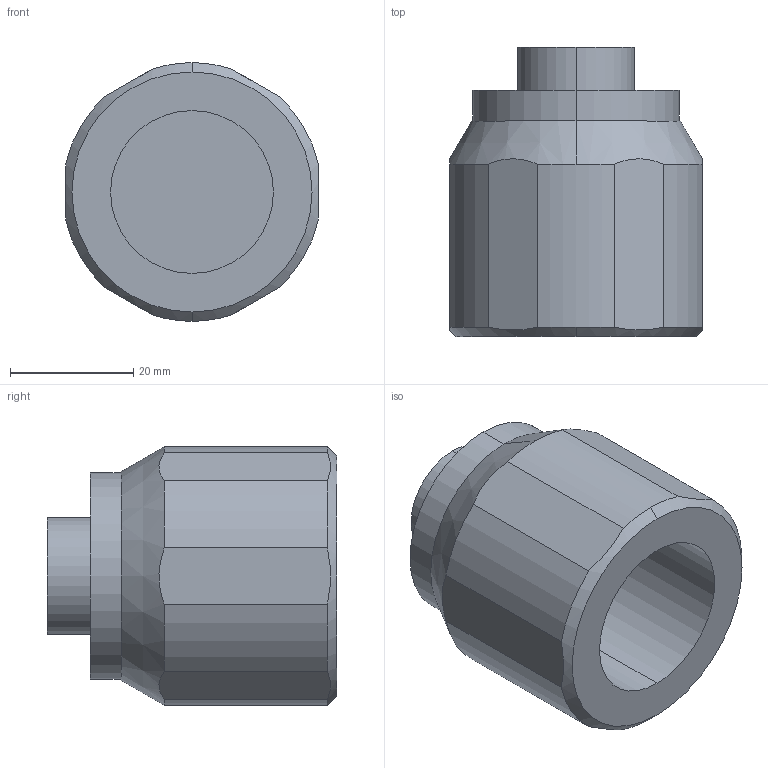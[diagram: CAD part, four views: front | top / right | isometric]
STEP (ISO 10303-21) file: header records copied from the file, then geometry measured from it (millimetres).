
FILE_DESCRIPTION (( 'STEP AP214' ), '1' );
FILE_NAME ('Silvent 715C.STEP', '2012-02-02T15:22:25', ( 'silvpesv' ), ( '' ), 'SwSTEP 2.0', 'SolidWorks 2011', '' );
FILE_SCHEMA (( 'AUTOMOTIVE_DESIGN' ));
Length unit declared in the file: millimetre
Products named in the file (1): Silvent 715C
Bounding box: 41 x 47 x 42 mm (x, y, z)
Volume: 36016.9 mm3; surface area: 10259.1 mm2
Topology: 1 solids, 1 shells, 34 faces, 79 edges, 52 vertices
Faces by surface type: cylinder 17, plane 13, cone 4
Entity records: 1117 total; most frequent: CARTESIAN_POINT 286, DIRECTION 177, ORIENTED_EDGE 158, EDGE_CURVE 79, AXIS2_PLACEMENT_3D 75, VERTEX_POINT 52, CIRCLE 40, EDGE_LOOP 39
